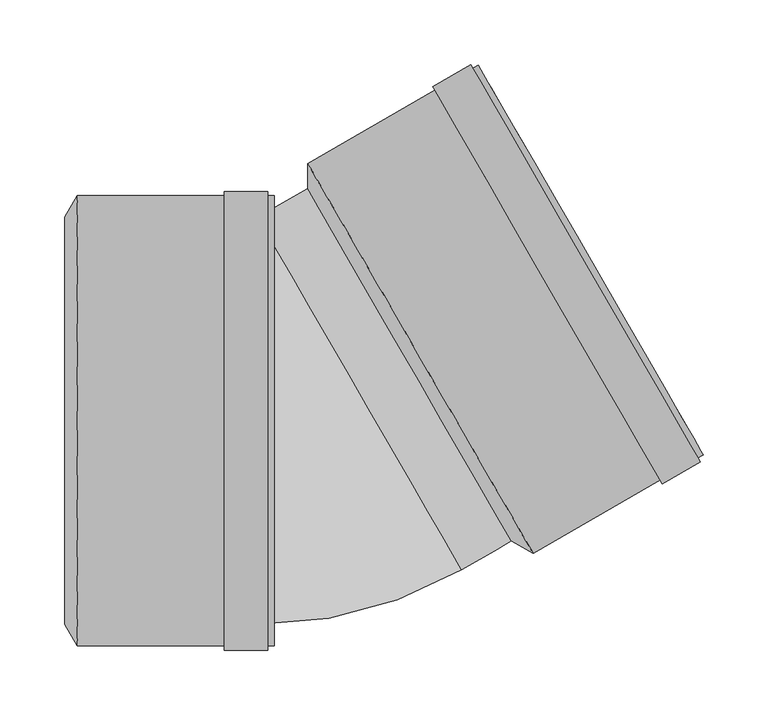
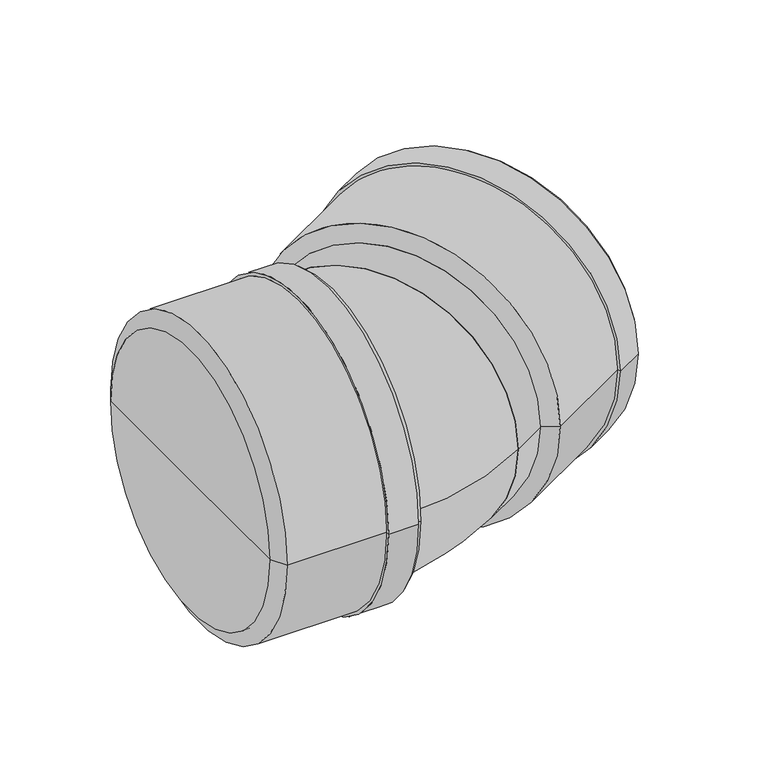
"""IFC4 building model written with IfcOpenShell, lengths in millimetres: pipe fitting geometry, pf_KGB : pf_KGB."""

from ifc_helpers import new_model, si_unit, point, frame, origin, origin_2d, place, context, project, spatial, polyline, circle_curve, ellipse_curve, trimmed, segment, composite_curve, outline, extrude, source, transform, mapped, element, save
from ifc_brep_helpers import plane_surface, cylinder_surface, revolved_surface, advanced_brep


def pipe_fitting_414ade49(model_context):
    return source(origin(), model_context, "Body", "SolidModel", [
        advanced_brep(
        [(153.7478, -93.0990011, 0.0), (-3.7522, 179.6990011, 0.0), (-3.4785485, 199.0250228, 0.0), (170.6214515, -102.5250228, 0.0), (74.9978, 43.3, 0.0), (302.3439154, -26.4750228, 0.0), (128.2439154, 275.0750228, 0.0), (136.5439154, 260.6990011, 0.0), (294.0439154, -12.0990011, 0.0), (124.0869934, 272.6750228, 0.0), (298.1869934, -28.8750228, 0.0), (122.3869934, 275.6195092, 0.0), (299.8869934, -31.8195092, 0.0), (93.0287323, 258.6695092, 0.0), (270.5287323, -48.7695092, 0.0), (94.7287323, 255.7250228, 0.0), (268.8287323, -45.8250228, 0.0), (162.3214515, -88.1490011, 0.0), (4.8214515, 184.6490011, 0.0), (83.5714515, 48.25, 0.0)],
        [
            (0, 1, circle_curve(frame((74.9978, 43.3, 0.0), z_axis=(0.8660254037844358, 0.5000000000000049, 0.0), x_axis=(-0.5000000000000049, 0.8660254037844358, 0.0)), 157.5)),
            (1, 2),
            (2, 3, circle_curve(frame((83.5714515, 48.25, 0.0), z_axis=(-0.8660254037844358, -0.5000000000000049, 0.0), x_axis=(-0.5000000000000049, 0.8660254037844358, 0.0)), 174.1)),
            (3, 0),
            (1, 0, circle_curve(frame((74.9978, 43.3, 0.0), z_axis=(0.8660254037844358, 0.5000000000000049, 0.0), x_axis=(-0.5000000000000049, 0.8660254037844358, 0.0)), 157.5)),
            (3, 2, circle_curve(frame((83.5714515, 48.25, 0.0), z_axis=(-0.8660254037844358, -0.5000000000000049, 0.0), x_axis=(-0.5000000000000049, 0.8660254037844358, 0.0)), 174.1)),
            (4, 1),
            (0, 4),
            (5, 6, circle_curve(frame((215.2939154, 124.3, 0.0), z_axis=(0.8660254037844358, 0.5000000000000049, 0.0), x_axis=(-0.5000000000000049, 0.8660254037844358, 0.0)), 174.1)),
            (6, 7),
            (7, 8, circle_curve(frame((215.2939154, 124.3, 0.0), z_axis=(-0.8660254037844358, -0.5000000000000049, 0.0), x_axis=(-0.5000000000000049, 0.8660254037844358, 0.0)), 157.5)),
            (8, 5),
            (9, 10, circle_curve(frame((211.1369934, 121.9, 0.0), z_axis=(0.8660254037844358, 0.5000000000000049, 0.0), x_axis=(-0.5000000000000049, 0.8660254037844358, 0.0)), 174.1)),
            (10, 5),
            (5, 6, circle_curve(frame((215.2939154, 124.3, 0.0), z_axis=(-0.8660254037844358, -0.5000000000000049, 0.0), x_axis=(-0.5000000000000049, 0.8660254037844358, 0.0)), 174.1)),
            (6, 9),
            (11, 12, circle_curve(frame((211.1369934, 121.9, 0.0), z_axis=(0.8660254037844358, 0.5000000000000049, 0.0), x_axis=(-0.5000000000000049, 0.8660254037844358, 0.0)), 177.5)),
            (12, 10),
            (9, 11),
            (13, 14, circle_curve(frame((181.7787323, 104.95, 0.0), z_axis=(0.8660254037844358, 0.5000000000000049, 0.0), x_axis=(-0.5000000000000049, 0.8660254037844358, 0.0)), 177.5)),
            (14, 12),
            (11, 13),
            (15, 16, circle_curve(frame((181.7787323, 104.95, 0.0), z_axis=(0.8660254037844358, 0.5000000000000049, 0.0), x_axis=(-0.5000000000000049, 0.8660254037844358, 0.0)), 174.1)),
            (16, 14),
            (13, 15),
            (8, 7, circle_curve(frame((215.2939154, 124.3, 0.0), z_axis=(-0.8660254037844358, -0.5000000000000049, 0.0), x_axis=(-0.5000000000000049, 0.8660254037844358, 0.0)), 157.5)),
            (10, 9, circle_curve(frame((211.1369934, 121.9, 0.0), z_axis=(0.8660254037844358, 0.5000000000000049, 0.0), x_axis=(-0.5000000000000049, 0.8660254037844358, 0.0)), 174.1)),
            (12, 11, circle_curve(frame((211.1369934, 121.9, 0.0), z_axis=(0.8660254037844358, 0.5000000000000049, 0.0), x_axis=(-0.5000000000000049, 0.8660254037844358, 0.0)), 177.5)),
            (14, 13, circle_curve(frame((181.7787323, 104.95, 0.0), z_axis=(0.8660254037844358, 0.5000000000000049, 0.0), x_axis=(-0.5000000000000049, 0.8660254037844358, 0.0)), 177.5)),
            (16, 15, circle_curve(frame((181.7787323, 104.95, 0.0), z_axis=(0.8660254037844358, 0.5000000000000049, 0.0), x_axis=(-0.5000000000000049, 0.8660254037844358, 0.0)), 174.1)),
            (2, 15),
            (16, 3),
            (17, 18, circle_curve(frame((83.5714515, 48.25, 0.0), z_axis=(0.8660254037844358, 0.5000000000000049, 0.0), x_axis=(-0.5000000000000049, 0.8660254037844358, 0.0)), 157.5)),
            (18, 19),
            (19, 17),
            (18, 17, circle_curve(frame((83.5714515, 48.25, 0.0), z_axis=(0.8660254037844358, 0.5000000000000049, 0.0), x_axis=(-0.5000000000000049, 0.8660254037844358, 0.0)), 157.5)),
            (7, 18),
            (17, 8),
        ],
        [
            revolved_surface(polyline([(-3.4785485, 199.0250228, 0.0), (-3.7522, 179.6990011, 0.0)]), (74.9978, 43.3, 0.0), (-0.8660254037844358, -0.5000000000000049, 0.0)),
            plane_surface(frame((74.9978, 43.3, 0.0), z_axis=(-0.8660254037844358, -0.5000000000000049, 0.0), x_axis=(-0.5000000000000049, 0.8660254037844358, 0.0))),
            plane_surface(frame((215.2939154, 124.3, 0.0), z_axis=(0.8660254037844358, 0.5000000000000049, 0.0), x_axis=(-0.5000000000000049, 0.8660254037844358, 0.0))),
            cylinder_surface(frame((74.9978, 43.3, 0.0), z_axis=(-0.8660254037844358, -0.5000000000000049, 0.0), x_axis=(-0.5000000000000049, 0.8660254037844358, 0.0)), 174.1),
            plane_surface(frame((211.1369934, 121.9, 0.0), z_axis=(0.8660254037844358, 0.5000000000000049, 0.0), x_axis=(-0.5000000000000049, 0.8660254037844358, 0.0))),
            cylinder_surface(frame((74.9978, 43.3, 0.0), z_axis=(-0.8660254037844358, -0.5000000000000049, 0.0), x_axis=(-0.5000000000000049, 0.8660254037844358, 0.0)), 177.5),
            plane_surface(frame((181.7787323, 104.95, 0.0), z_axis=(-0.8660254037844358, -0.5000000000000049, 0.0), x_axis=(-0.5000000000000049, 0.8660254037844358, 0.0))),
            plane_surface(frame((83.5714515, 48.25, 0.0), z_axis=(0.8660254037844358, 0.5000000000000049, 0.0), x_axis=(-0.5000000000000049, 0.8660254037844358, 0.0))),
            revolved_surface(polyline([(4.821451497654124, 184.64900109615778, 0.0), (136.5439154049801, 260.69900109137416, 0.0)]), (74.9978, 43.3, 0.0), (-0.8660254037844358, -0.5000000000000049, 0.0)),
        ],
        [
            (0, [[1, 2, 3, 4]]),
            (0, [[5, -4, 6, -2]]),
            (1, [[7, -1, 8]]),
            (1, [[-8, -5, -7]]),
            (2, [[9, 10, 11, 12]]),
            (3, [[13, 14, 15, 16]]),
            (4, [[17, 18, -13, 19]]),
            (5, [[20, 21, -17, 22]]),
            (6, [[23, 24, -20, 25]]),
            (2, [[-15, -12, 26, -10]]),
            (3, [[27, -16, -9, -14]]),
            (4, [[28, -19, -27, -18]]),
            (5, [[29, -22, -28, -21]]),
            (6, [[30, -25, -29, -24]]),
            (3, [[-3, 31, -30, 32]]),
            (3, [[-6, -32, -23, -31]]),
            (7, [[33, 34, 35]]),
            (7, [[36, -35, -34]]),
            (8, [[-11, 37, -33, 38]]),
            (8, [[-26, -38, -36, -37]]),
        ],
    ),
        advanced_brep(
        [(-191.6, -157.5, 0.0), (-191.6, 157.5, 0.0), (-181.7, 174.1, 0.0), (-181.7, -174.1, 0.0), (-191.6, 0.0, 0.0), (-29.6, -174.1, 0.0), (-29.6, 174.1, 0.0), (-29.6, 157.5, 0.0), (-29.6, -157.5, 0.0), (-34.4, 174.1, 0.0), (-34.4, -174.1, 0.0), (-34.4, 177.5, 0.0), (-34.4, -177.5, 0.0), (-68.3, 177.5, 0.0), (-68.3, -177.5, 0.0), (-68.3, 174.1, 0.0), (-68.3, -174.1, 0.0), (-181.7, -157.5, 0.0), (-181.7, 157.5, 0.0), (-181.7, 0.0, 0.0)],
        [
            (0, 1, circle_curve(frame((-191.6, 0.0, 0.0), z_axis=(1.0, 0.0, 0.0), x_axis=(0.0, 1.0, 0.0)), 157.5)),
            (1, 2),
            (2, 3, circle_curve(frame((-181.7, 0.0, 0.0), z_axis=(-1.0, 0.0, 0.0), x_axis=(0.0, 1.0, 0.0)), 174.1)),
            (3, 0),
            (1, 0, circle_curve(frame((-191.6, 0.0, 0.0), z_axis=(1.0, 0.0, 0.0), x_axis=(0.0, 1.0, 0.0)), 157.5)),
            (3, 2, circle_curve(frame((-181.7, 0.0, 0.0), z_axis=(-1.0, 0.0, 0.0), x_axis=(0.0, 1.0, 0.0)), 174.1)),
            (4, 1),
            (0, 4),
            (5, 6, circle_curve(frame((-29.6, 0.0, 0.0), z_axis=(1.0, 0.0, 0.0), x_axis=(0.0, 1.0, 0.0)), 174.1)),
            (6, 7),
            (7, 8, circle_curve(frame((-29.6, 0.0, 0.0), z_axis=(-1.0, 0.0, 0.0), x_axis=(0.0, 1.0, 0.0)), 157.5)),
            (8, 5),
            (9, 10, circle_curve(frame((-34.4, 0.0, 0.0), z_axis=(1.0, 0.0, 0.0), x_axis=(0.0, 1.0, 0.0)), 174.1)),
            (10, 5),
            (5, 6, circle_curve(frame((-29.6, 0.0, 0.0), z_axis=(-1.0, 0.0, 0.0), x_axis=(0.0, 1.0, 0.0)), 174.1)),
            (6, 9),
            (11, 12, circle_curve(frame((-34.4, 0.0, 0.0), z_axis=(1.0, 0.0, 0.0), x_axis=(0.0, 1.0, 0.0)), 177.5)),
            (12, 10),
            (9, 11),
            (13, 14, circle_curve(frame((-68.3, 0.0, 0.0), z_axis=(1.0, 0.0, 0.0), x_axis=(0.0, 1.0, 0.0)), 177.5)),
            (14, 12),
            (11, 13),
            (15, 16, circle_curve(frame((-68.3, 0.0, 0.0), z_axis=(1.0, 0.0, 0.0), x_axis=(0.0, 1.0, 0.0)), 174.1)),
            (16, 14),
            (13, 15),
            (8, 7, circle_curve(frame((-29.6, 0.0, 0.0), z_axis=(-1.0, 0.0, 0.0), x_axis=(0.0, 1.0, 0.0)), 157.5)),
            (10, 9, circle_curve(frame((-34.4, 0.0, 0.0), z_axis=(1.0, 0.0, 0.0), x_axis=(0.0, 1.0, 0.0)), 174.1)),
            (12, 11, circle_curve(frame((-34.4, 0.0, 0.0), z_axis=(1.0, 0.0, 0.0), x_axis=(0.0, 1.0, 0.0)), 177.5)),
            (14, 13, circle_curve(frame((-68.3, 0.0, 0.0), z_axis=(1.0, 0.0, 0.0), x_axis=(0.0, 1.0, 0.0)), 177.5)),
            (16, 15, circle_curve(frame((-68.3, 0.0, 0.0), z_axis=(1.0, 0.0, 0.0), x_axis=(0.0, 1.0, 0.0)), 174.1)),
            (2, 15),
            (16, 3),
            (17, 18, circle_curve(frame((-181.7, 0.0, 0.0), z_axis=(1.0, 0.0, 0.0), x_axis=(0.0, 1.0, 0.0)), 157.5)),
            (18, 19),
            (19, 17),
            (18, 17, circle_curve(frame((-181.7, 0.0, 0.0), z_axis=(1.0, 0.0, 0.0), x_axis=(0.0, 1.0, 0.0)), 157.5)),
            (7, 18),
            (17, 8),
        ],
        [
            revolved_surface(polyline([(-181.7, 174.1, 0.0), (-191.6, 157.5, 0.0)]), (-191.6, 0.0, 0.0), (-1.0, 0.0, 0.0)),
            plane_surface(frame((-191.6, 0.0, 0.0), z_axis=(-1.0, 0.0, 0.0), x_axis=(0.0, 1.0, 0.0))),
            plane_surface(frame((-29.6, 0.0, 0.0), z_axis=(1.0, 0.0, 0.0), x_axis=(0.0, 1.0, 0.0))),
            cylinder_surface(frame((-191.6, 0.0, 0.0), z_axis=(-1.0, 0.0, 0.0), x_axis=(0.0, 1.0, 0.0)), 174.1),
            plane_surface(frame((-34.4, 0.0, 0.0), z_axis=(1.0, 0.0, 0.0), x_axis=(0.0, 1.0, 0.0))),
            cylinder_surface(frame((-191.6, 0.0, 0.0), z_axis=(-1.0, 0.0, 0.0), x_axis=(0.0, 1.0, 0.0)), 177.5),
            plane_surface(frame((-68.3, 0.0, 0.0), z_axis=(-1.0, 0.0, 0.0), x_axis=(0.0, 1.0, 0.0))),
            plane_surface(frame((-181.7, 0.0, 0.0), z_axis=(1.0, 0.0, 0.0), x_axis=(0.0, 1.0, 0.0))),
            revolved_surface(polyline([(-181.7, 157.5, 0.0), (-29.599999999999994, 157.5, 0.0)]), (-191.6, 0.0, 0.0), (-1.0, 0.0, 0.0)),
        ],
        [
            (0, [[1, 2, 3, 4]]),
            (0, [[5, -4, 6, -2]]),
            (1, [[7, -1, 8]]),
            (1, [[-8, -5, -7]]),
            (2, [[9, 10, 11, 12]]),
            (3, [[13, 14, 15, 16]]),
            (4, [[17, 18, -13, 19]]),
            (5, [[20, 21, -17, 22]]),
            (6, [[23, 24, -20, 25]]),
            (2, [[-15, -12, 26, -10]]),
            (3, [[27, -16, -9, -14]]),
            (4, [[28, -19, -27, -18]]),
            (5, [[29, -22, -28, -21]]),
            (6, [[30, -25, -29, -24]]),
            (3, [[-3, 31, -30, 32]]),
            (3, [[-6, -32, -23, -31]]),
            (7, [[33, 34, 35]]),
            (7, [[36, -35, -34]]),
            (8, [[-11, 37, -33, 38]]),
            (8, [[-26, -38, -36, -37]]),
        ],
    ),
        extrude(outline(composite_curve([segment(trimmed(circle_curve(origin_2d(), 157.5), [point((0.0, -157.5))], [point((0.0, 157.5))], False, "CARTESIAN"), True, "CONTINUOUS"), segment(trimmed(circle_curve(origin_2d(), 157.5), [point((0.0, 157.5))], [point((0.0, -157.5))], False, "CARTESIAN"), True, "CONTINUOUS")], self_intersect=False)), frame((36.5480022, 21.1009989, 0.0), z_axis=(0.8660254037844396, 0.49999999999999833, 0.0), x_axis=(0.0, 0.0, 1.0)), (0.0, 0.0, 1.0), 44.3980022),
        extrude(outline(composite_curve([segment(trimmed(circle_curve(origin_2d(), 157.5), [point((-157.5, 0.0))], [point((157.5, 0.0))], False, "CARTESIAN"), True, "CONTINUOUS"), segment(trimmed(circle_curve(origin_2d(), 157.5), [point((157.5, 0.0))], [point((-157.5, 0.0))], False, "CARTESIAN"), True, "CONTINUOUS")], self_intersect=False)), frame((-181.7, 0.0, 0.0), z_axis=(1.0, 0.0, 0.0), x_axis=(0.0, 1.0, 0.0)), (0.0, 0.0, 1.0), 139.4980022),
        advanced_brep(
        [(-42.2019978, -157.5, 0.0), (-42.2019978, 157.5, 0.0), (115.2980022, -115.2980022, 0.0)],
        [
            (0, 1, circle_curve(frame((-42.2019978, 0.0, 0.0), z_axis=(-1.0, 0.0, 0.0), x_axis=(0.0, 1.0, 0.0)), 157.5)),
            (1, 0, circle_curve(frame((-42.2019978, 0.0, 0.0), z_axis=(-1.0, 0.0, 0.0), x_axis=(0.0, 1.0, 0.0)), 157.5)),
            (2, 1, circle_curve(frame((36.5480022, 21.1009989, 0.0), z_axis=(0.8660254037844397, 0.49999999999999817, 0.0), x_axis=(-0.49999999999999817, 0.8660254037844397, 0.0)), 157.5)),
            (1, 2, circle_curve(frame((36.5480022, 21.1009989, 0.0), z_axis=(0.8660254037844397, 0.49999999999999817, 0.0), x_axis=(-0.49999999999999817, 0.8660254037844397, 0.0)), 157.5)),
            (2, 0, circle_curve(frame((-42.2019978, 157.5, 0.0), z_axis=(0.0, 0.0, -1.0), x_axis=(0.0, -1.0, 0.0)), 315.0)),
        ],
        [
            plane_surface(frame((-42.2019978, 157.5, -14.8), z_axis=(-1.0, 0.0, 0.0), x_axis=(0.0, -1.0, 0.0))),
            plane_surface(frame((-42.2019978, 157.5, -14.8), z_axis=(0.8660254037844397, 0.4999999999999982, 0.0), x_axis=(0.4999999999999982, -0.8660254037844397, 0.0))),
            revolved_surface(trimmed(ellipse_curve(frame((-42.2019978, 0.0, 0.0), z_axis=(1.0, 0.0, 0.0), x_axis=(0.0, 1.0, 0.0)), 157.5, 157.5), [point((-42.2019978, -157.5, 0.0))], [point((-42.2019978, 157.5, 0.0))], True, "CARTESIAN"), (-42.2019978, 157.5, -14.8), (0.0, 0.0, -1.0)),
            revolved_surface(trimmed(ellipse_curve(frame((-42.2019978, 0.0, 0.0), z_axis=(1.0, 0.0, 0.0), x_axis=(0.0, 1.0, 0.0)), 157.5, 157.5), [point((-42.2019978, 157.5, 0.0))], [point((-42.2019978, -157.5, 0.0))], True, "CARTESIAN"), (-42.2019978, 157.5, -14.8), (0.0, 0.0, -1.0)),
        ],
        [
            (0, [[1, 2]]),
            (1, [[3, 4]]),
            (2, [[5, -2, -3]]),
            (3, [[-1, -5, -4]]),
        ],
    ),
    ])


if __name__ == "__main__":
    model = new_model("IFC4")
    model_context = context("Model", 3, world=origin())
    ifc_project = project(units=[si_unit("LENGTHUNIT", "METRE", prefix="MILLI")], contexts=[model_context])
    site = spatial("IfcSite", under=ifc_project)
    building = spatial("IfcBuilding", under=site)
    placement = place(None, origin())
    pipe_fitting_shape = pipe_fitting_414ade49(model_context)
    element("IfcPipeFitting", 1, ObjectType="pf_KGB : pf_KGB", at=placement, inside=building, context=model_context, shape_type="MappedRepresentation", body=[
        mapped(pipe_fitting_shape, transform((0.0, 0.0, 0.0), x_axis=(1.0, 0.0, 0.0), y_axis=(0.0, 1.0, 0.0), z_axis=(0.0, 0.0, 1.0))),
    ])
    save(model, "model.ifc")
